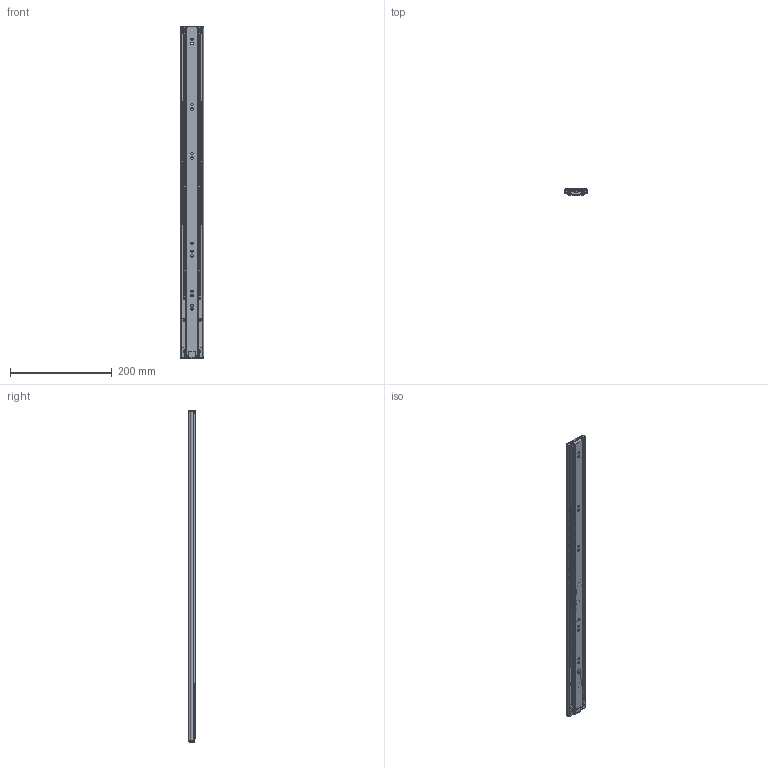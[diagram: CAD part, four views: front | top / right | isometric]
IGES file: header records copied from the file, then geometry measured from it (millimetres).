
Global section: file name: No Iges File Name specified; native system: Autodesk Inventor 2010; preprocessor: AutoDesk Inventor Iges Exporter R2010; author: jennes; date: 20110120.113835; units: millimetre
Bounding box: 45.98 x 12.5 x 651.1 mm (x, y, z)
Volume: 147658.4 mm3; surface area: 236883.3 mm2
Topology: 81 solids, 81 shells, 2128 faces, 6390 edges, 4005 vertices
Faces by surface type: plane 1109, cylinder 427, revolution 337, sphere 148, torus 59, bspline 48
